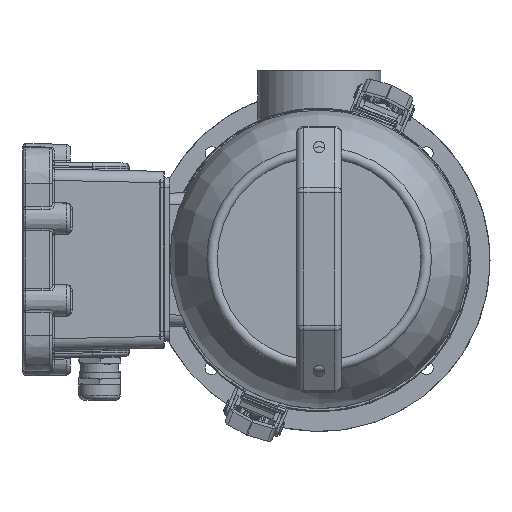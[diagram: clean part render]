
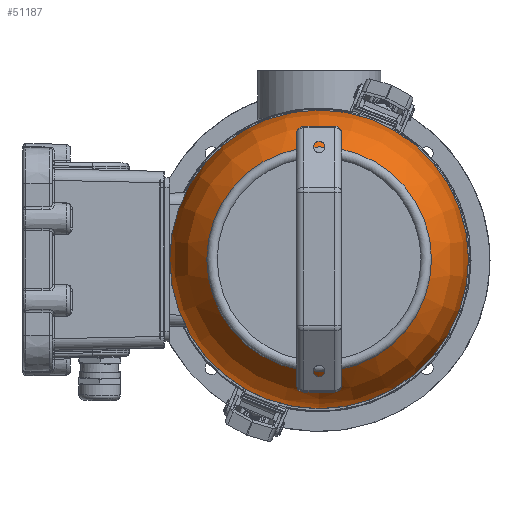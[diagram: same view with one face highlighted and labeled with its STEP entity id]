
A CAD part, top view. The second image highlights one B-rep face of the part: STEP entity #51187.
In plain terms, the highlighted toroidal (fillet/blend) face has major radius 19.275 mm and minor radius 59.391 mm.
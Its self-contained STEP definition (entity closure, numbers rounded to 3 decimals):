
#104=DEGENERATE_TOROIDAL_SURFACE('',#54043,19.275,59.391,
 .T.);
#3891=CIRCLE('',#54034,59.166);
#3896=CIRCLE('',#54044,78.666);
#8713=ORIENTED_EDGE('',*,*,#17922,.F.);
#8714=ORIENTED_EDGE('',*,*,#17917,.T.);
#17917=EDGE_CURVE('',#22695,#22695,#3891,.T.);
#17922=EDGE_CURVE('',#22700,#22700,#3896,.T.);
#22695=VERTEX_POINT('',#85826);
#22700=VERTEX_POINT('',#85841);
#29734=EDGE_LOOP('',(#8713));
#29735=EDGE_LOOP('',(#8714));
#32423=FACE_BOUND('',#29734,.T.);
#32424=FACE_BOUND('',#29735,.T.);
#51187=ADVANCED_FACE('',(#32423,#32424),#104,.T.);
#54034=AXIS2_PLACEMENT_3D('',#85825,#59995,#59996);
#54043=AXIS2_PLACEMENT_3D('',#85839,#60013,#60014);
#54044=AXIS2_PLACEMENT_3D('',#85840,#60015,#60016);
#59995=DIRECTION('',(0.,0.,-1.));
#59996=DIRECTION('',(0.,-1.,0.));
#60013=DIRECTION('',(0.,0.,-1.));
#60014=DIRECTION('',(0.,-1.,0.));
#60015=DIRECTION('',(0.,0.,-1.));
#60016=DIRECTION('',(0.,-1.,0.));
#85825=CARTESIAN_POINT('',(0.,0.,639.553));
#85826=CARTESIAN_POINT('',(0.,-59.166,639.553));
#85839=CARTESIAN_POINT('',(0.,0.,595.553));
#85840=CARTESIAN_POINT('',(0.,0.,595.746));
#85841=CARTESIAN_POINT('',(0.,-78.666,595.746));
